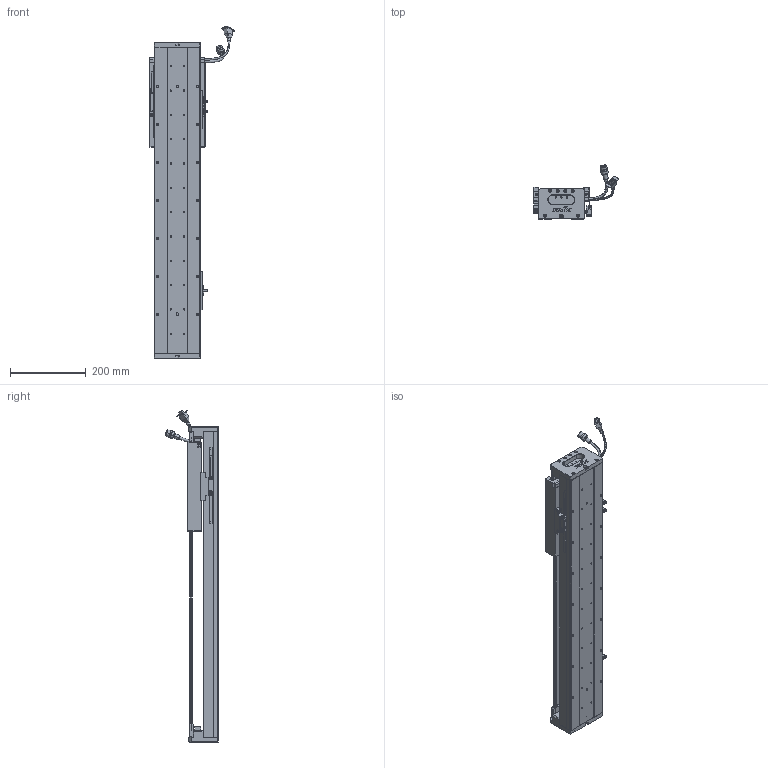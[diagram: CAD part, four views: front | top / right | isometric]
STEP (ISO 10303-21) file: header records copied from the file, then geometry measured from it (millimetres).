
FILE_DESCRIPTION (( 'STEP AP203' ), '1' );
FILE_NAME ('Z3-RY120D-1-L500-B-K.SLDASM_0500.step', '2021-05-17T05:46:03', ( '盈信电脑' ), ( '东莞市道滘镇水果街19号' ), 'SwSTEP 2.0', 'SolidWorks 2016', '' );
FILE_SCHEMA (( 'CONFIG_CONTROL_DESIGN' ));
Length unit declared in the file: millimetre
Products named in the file (37): Z-RY120D詩湍奻揤裔; SCREW-M1.6-2; Z3-RY120铝滑块（21款）; Z-RY120D詩湍狟揤裔; SCREW-M1.6-3; SCREW-M1.6-1; SCALE-Part-1; PBU_SHEET; COVER; 140蚥薯蝶輸; HARNESS-Part-2; SEAL-Part-1; SCALE; HARNESS; 榋妏寠巭燃_暯_M2_2; HOLDER0; SHIELDPLATE; PSLH080_PSLF2; 140雄赽晤鎢ん堤盄; 080黍杅芛假蚾釱21遴; 120-Z-臏賑輸盄裔(21遴); SCREW-M1.7; LABEL-Part-1; SCREW-M1.6; Z-120詩湍傷裔啣; Z3-RY120-L500詩湍100mm遵_0500; SCALE-Part-2; RY100FB-遵嫖萇覜茼え; 672嫖萇羲壽假蚾釱; COVER-Part-1; LABEL; 覜茼ん672; Z3-RY120-500-倰第菁釱_0500; SCREW-M1.7-1; HARNESS-Part-1; Z3-RY120D-1-L500-B-K.SLDASM_0500; SEAL
Assembly tree (43 placements, depth 4):
  Z3-RY120D-1-L500-B-K.SLDASM_0500
    Z3-RY120-500-倰第菁釱_0500
    覜茼ん672  x3
    672嫖萇羲壽假蚾釱  x2
    Z3-RY120铝滑块（21款）
    PSLH080_PSLF2
      SCALE
        SCALE-Part-1
        SCALE-Part-2
      HARNESS
        HARNESS-Part-1
        HARNESS-Part-2
      LABEL
        LABEL-Part-1
      COVER
        COVER-Part-1
      SEAL
        SEAL-Part-1
      榋妏寠巭燃_暯_M2_2
      SHIELDPLATE
      SCREW-M1.7
      SCREW-M1.7-1
      PBU_SHEET
      SCREW-M1.6
      SCREW-M1.6-1
      SCREW-M1.6-2
      SCREW-M1.6-3
      HOLDER0
    080黍杅芛假蚾釱21遴
    120-Z-臏賑輸盄裔(21遴)
    140雄赽晤鎢ん堤盄
    140蚥薯蝶輸  x2
    RY100FB-遵嫖萇覜茼え
    Z-120詩湍傷裔啣  x2
    Z-RY120D詩湍奻揤裔  x2
    Z-RY120D詩湍狟揤裔  x2
    Z3-RY120-L500詩湍100mm遵_0500
Bounding box: 222.88 x 140.94 x 874 mm (x, y, z)
Volume: 2665147 mm3; surface area: 868363.2 mm2
Topology: 38 solids, 38 shells, 2657 faces, 7081 edges, 4468 vertices
Faces by surface type: cylinder 1173, plane 1096, cone 266, torus 69, bspline 53
Entity records: 77458 total; most frequent: CARTESIAN_POINT 19735, DIRECTION 11207, ORIENTED_EDGE 11154, EDGE_CURVE 5577, AXIS2_PLACEMENT_3D 4094, VERTEX_POINT 3588, LINE 3019, VECTOR 3019
